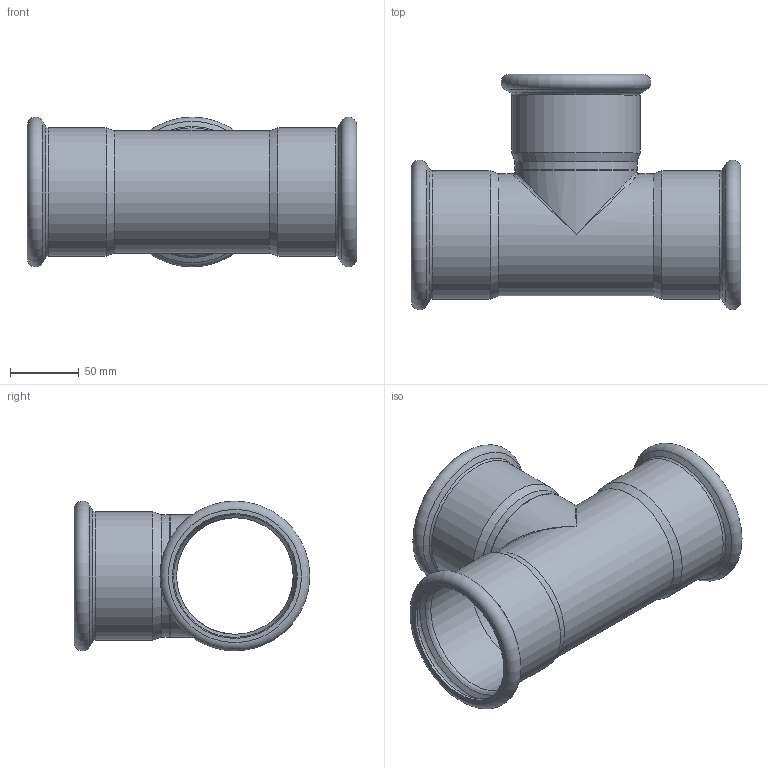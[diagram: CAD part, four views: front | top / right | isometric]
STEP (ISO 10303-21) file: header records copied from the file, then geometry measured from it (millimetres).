
FILE_DESCRIPTION((''),'2;1');
FILE_NAME('G:\Nirosan-Schmiedefeld\Technics\CAD\Bauteile\089\6913089(1).stp','2008-06-20T11:09:23',('herberg'),(''),'Autodesk Inventor 2009','Autodesk Inventor 2009','');
FILE_SCHEMA(('AUTOMOTIVE_DESIGN { 1 0 10303 214 1 1 1 1 }'));
Length unit declared in the file: millimetre
Products named in the file (3): 6913089(1); LM_6913089(0); HM_6924389(1)
Assembly tree (2 placements, depth 2):
  6913089(1)
    LM_6913089(0)
    HM_6924389(1)
Bounding box: 240 x 171.55 x 109.1 mm (x, y, z)
Volume: 189272.6 mm3; surface area: 192091.3 mm2
Topology: 2 solids, 2 shells, 51 faces, 109 edges, 57 vertices
Faces by surface type: cylinder 15, cone 12, bspline 10, plane 8, torus 6
Full cylindrical faces by diameter (mm): 84.9 x3, 88.9 x3, 89.5 x3, 91 x3, 93.5 x3
Entity records: 2196 total; most frequent: CARTESIAN_POINT 1260, DIRECTION 200, ORIENTED_EDGE 108, AXIS2_PLACEMENT_3D 100, EDGE_LOOP 100, EDGE_CURVE 54, FACE_OUTER_BOUND 51, ADVANCED_FACE 51
